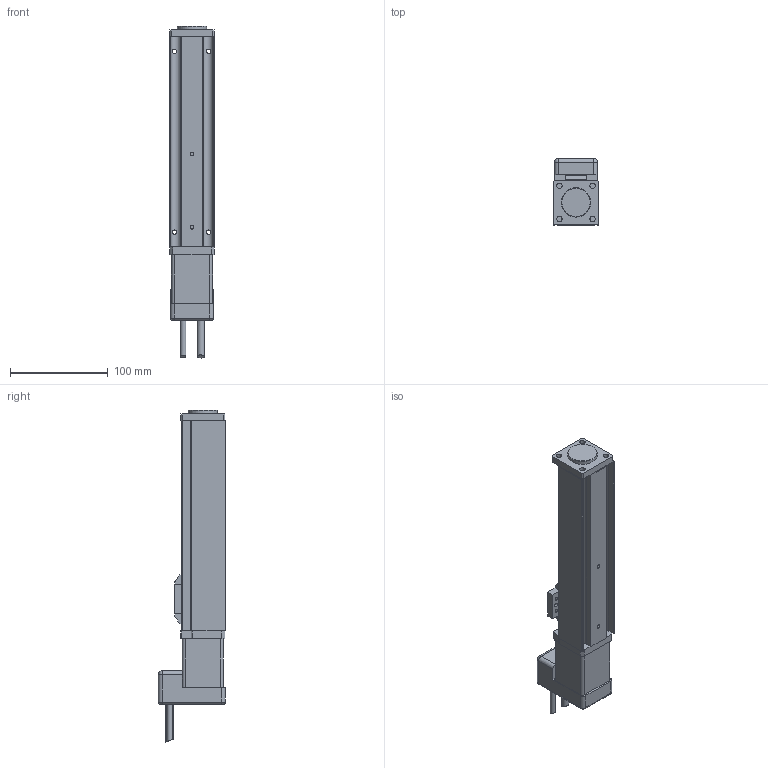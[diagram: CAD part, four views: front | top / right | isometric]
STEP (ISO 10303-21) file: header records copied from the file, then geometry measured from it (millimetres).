
FILE_DESCRIPTION(/* description */ ('Alibre Inc.'),/* implementation_level */ '2;1');
FILE_NAME(/* name */ 'export0',/* time_stamp */ '2011-08-02T10:15:00-04:00',/* author */ (''),/* organization */ (''),/* preprocessor_version */ 'ST-DEVELOPER v10',/* originating_system */ 'Alibre',/* authorisation */ '');
FILE_SCHEMA (('CONFIG_CONTROL_DESIGN'));
Length unit declared in the file: centimetre
Products named in the file (3): ID_1; ID_2
Bounding box: 47 x 68.8 x 339.76 mm (x, y, z)
Volume: 554552.4 mm3; surface area: 82375.7 mm2
Topology: 2 solids, 2 shells, 180 faces, 469 edges, 301 vertices
Faces by surface type: plane 98, cylinder 71, cone 5, torus 4, sphere 2
Full cylindrical faces by diameter (mm): 2.459 x3, 2.5 x1, 3.242 x4, 4 x4, 4.5 x4, 5 x1, 5.5 x5, 7.5 x1, 8 x4, 12 x1, 22 x1, 30 x1
Entity records: 5408 total; most frequent: CARTESIAN_POINT 988, ORIENTED_EDGE 830, DIRECTION 782, EDGE_CURVE 415, AXIS2_PLACEMENT_3D 313, VERTEX_POINT 288, FACE_BOUND 259, EDGE_LOOP 255
